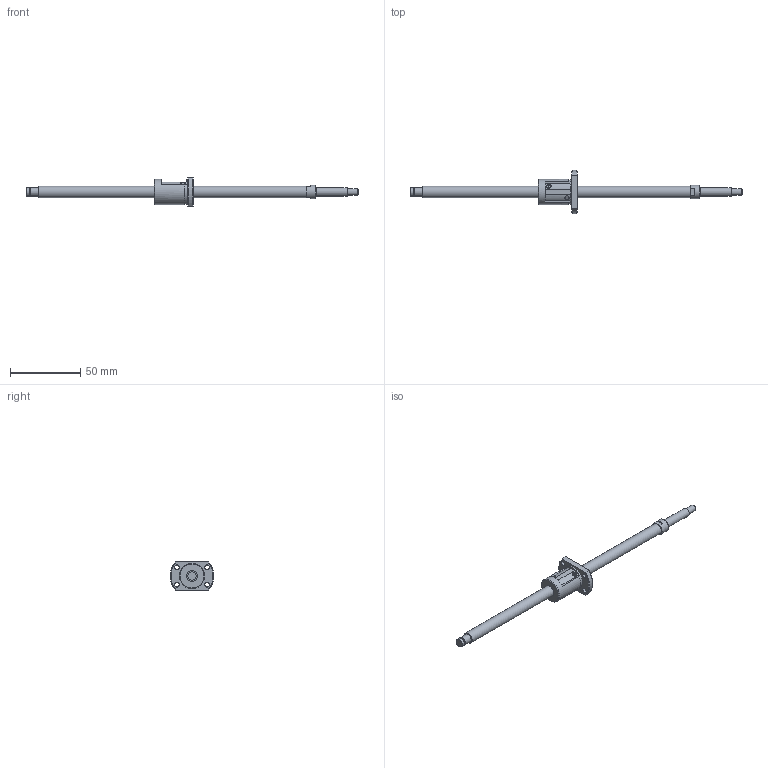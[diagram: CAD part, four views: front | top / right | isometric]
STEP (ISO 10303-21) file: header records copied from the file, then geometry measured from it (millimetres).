
FILE_DESCRIPTION(/* description */ ('STEP AP214'),/* implementation_level */ '2;1');
FILE_NAME(/* name */ 'SRT0805-187R237C7B0X(82.5Processing)',/* time_stamp */ '2026-08-04T20:02:37+02:00',/* author */ ('License CC BY-ND 4.0'),/* organization */ ('CADENAS'),/* preprocessor_version */ 'ST-DEVELOPER v20',/* originating_system */ 'PARTsolutions',/* authorisation */ ' ');
FILE_SCHEMA (('AUTOMOTIVE_DESIGN {1 0 10303 214 3 1 1}'));
Length unit declared in the file: millimetre
Products named in the file (3): SRT0805-187R237C7B0X(82.5Processing); SRT0805-187R270BCt7Processing41Shaft; SRT0805Nut
Assembly tree (2 placements, depth 2):
  SRT0805-187R237C7B0X(82.5Processing)
    SRT0805-187R270BCt7Processing41Shaft
    SRT0805Nut
Bounding box: 237 x 30.91 x 20 mm (x, y, z)
Volume: 17483 mm3; surface area: 9394.8 mm2
Topology: 2 solids, 2 shells, 75 faces, 173 edges, 110 vertices
Faces by surface type: plane 46, cylinder 18, cone 10, torus 1
Full cylindrical faces by diameter (mm): 3.4 x4, 4.5 x1, 5.7 x1, 6 x3, 8 x2, 9.5 x1, 17.7 x1, 18 x1
Entity records: 2055 total; most frequent: CARTESIAN_POINT 366, DIRECTION 352, ORIENTED_EDGE 286, EDGE_CURVE 143, AXIS2_PLACEMENT_3D 141, EDGE_LOOP 114, FACE_BOUND 114, VERTEX_POINT 101
